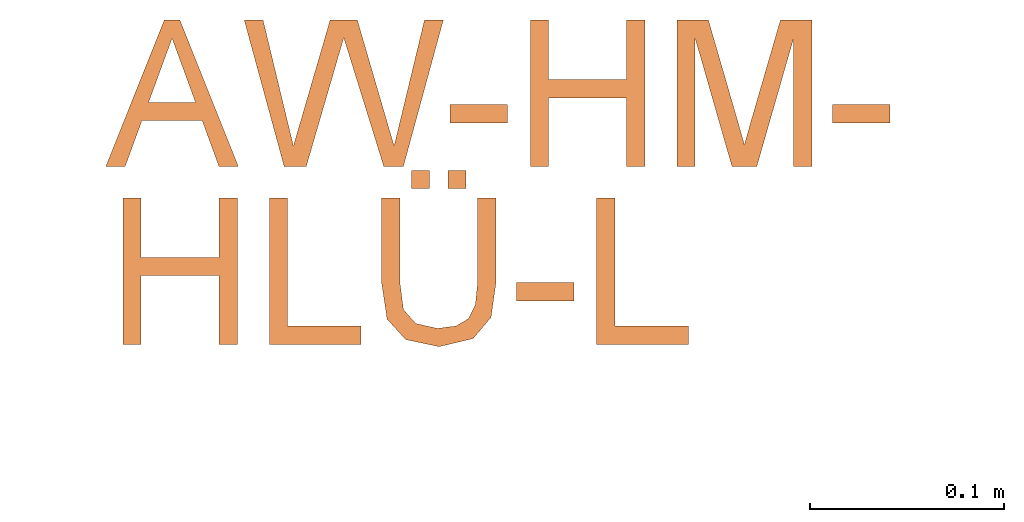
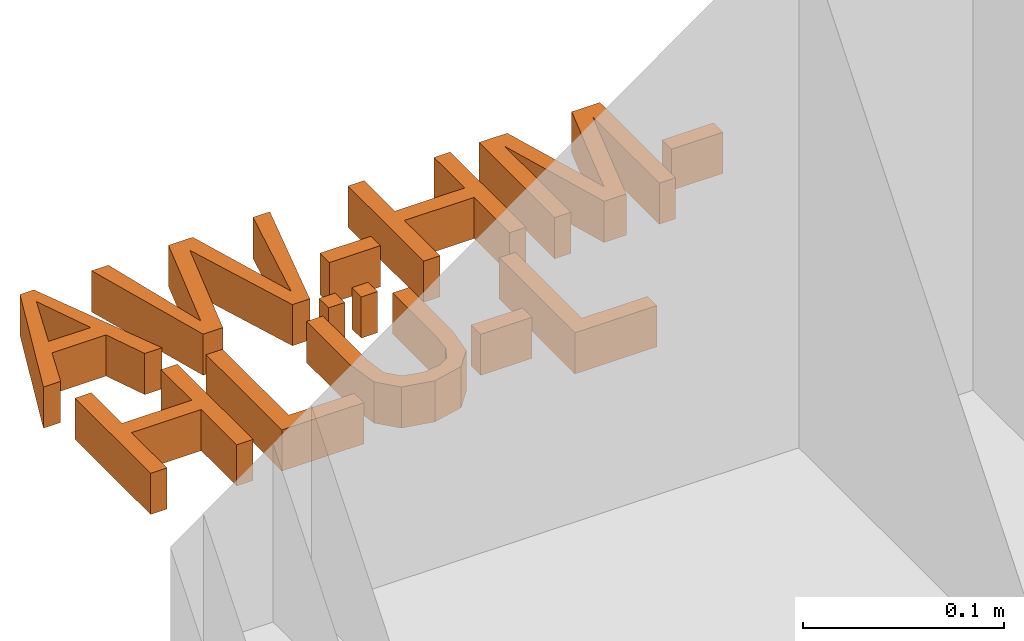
# Not in any storey, part 2 of 2: 1 proxy.
"""IFC4 model written with IfcOpenShell, lengths in metres."""

from ifc_helpers import new_model, entity, si_unit, converted_unit, derived_unit, direction, frame, origin, place, context, subcontext, project, spatial, indexed_curve, outline, extrude, type_object, element, save


model = new_model("IFC4")

# Units and contexts
model_context = context("Model", 3, precision=1e-05, world=origin(), true_north=direction((6.123031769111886e-17, 1.0)))
body_context = subcontext(model_context, "Body", "Model", "MODEL_VIEW")
ifc_project = project(units=[si_unit("LENGTHUNIT", "METRE"), si_unit("AREAUNIT", "SQUARE_METRE"), si_unit("VOLUMEUNIT", "CUBIC_METRE"), converted_unit("PLANEANGLEUNIT", "DEGREE", entity("IfcRatioMeasure", 0.017453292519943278), si_unit("PLANEANGLEUNIT", "RADIAN"), dimensions=[0, 0, 0, 0, 0, 0, 0]), si_unit("MASSUNIT", "GRAM", prefix="KILO"), derived_unit("MASSDENSITYUNIT", [(si_unit("MASSUNIT", "GRAM", prefix="KILO"), 1), (si_unit("LENGTHUNIT", "METRE"), -3)]), derived_unit("IONCONCENTRATIONUNIT", [(si_unit("MASSUNIT", "GRAM", prefix="KILO"), 1), (si_unit("LENGTHUNIT", "METRE"), -3)]), derived_unit("MOMENTOFINERTIAUNIT", [(si_unit("LENGTHUNIT", "METRE"), 4)]), si_unit("TIMEUNIT", "SECOND"), si_unit("FREQUENCYUNIT", "HERTZ"), si_unit("THERMODYNAMICTEMPERATUREUNIT", "DEGREE_CELSIUS"), derived_unit("THERMALTRANSMITTANCEUNIT", [(si_unit("MASSUNIT", "GRAM", prefix="KILO"), 1), (si_unit("THERMODYNAMICTEMPERATUREUNIT", "KELVIN"), -1), (si_unit("TIMEUNIT", "SECOND"), -3)]), derived_unit("THERMALCONDUCTANCEUNIT", [(si_unit("MASSUNIT", "GRAM", prefix="KILO"), 1), (si_unit("THERMODYNAMICTEMPERATUREUNIT", "KELVIN"), -1), (si_unit("TIMEUNIT", "SECOND"), -3), (si_unit("LENGTHUNIT", "METRE"), 1)]), derived_unit("VOLUMETRICFLOWRATEUNIT", [(si_unit("LENGTHUNIT", "METRE"), 3), (si_unit("TIMEUNIT", "SECOND"), -1)]), derived_unit("MASSFLOWRATEUNIT", [(si_unit("MASSUNIT", "GRAM", prefix="KILO"), 1), (si_unit("TIMEUNIT", "SECOND"), -1)]), derived_unit("ROTATIONALFREQUENCYUNIT", [(si_unit("TIMEUNIT", "SECOND"), -1)]), si_unit("ELECTRICCURRENTUNIT", "AMPERE"), si_unit("ELECTRICVOLTAGEUNIT", "VOLT"), si_unit("POWERUNIT", "WATT"), si_unit("FORCEUNIT", "NEWTON", prefix="KILO"), si_unit("ILLUMINANCEUNIT", "LUX"), si_unit("LUMINOUSFLUXUNIT", "LUMEN"), si_unit("LUMINOUSINTENSITYUNIT", "CANDELA"), derived_unit("USERDEFINED", [(si_unit("MASSUNIT", "GRAM", prefix="KILO"), -1), (si_unit("LENGTHUNIT", "METRE"), -2), (si_unit("TIMEUNIT", "SECOND"), 3), (si_unit("LUMINOUSFLUXUNIT", "LUMEN"), 1)]), derived_unit("USERDEFINED", [(si_unit("MASSUNIT", "GRAM", prefix="KILO"), 1), (si_unit("TIMEUNIT", "SECOND"), -3), (si_unit("LENGTHUNIT", "METRE"), 3), (si_unit("ELECTRICCURRENTUNIT", "AMPERE"), -2)]), derived_unit("SOUNDPOWERUNIT", [(si_unit("MASSUNIT", "GRAM", prefix="KILO"), 1), (si_unit("TIMEUNIT", "SECOND"), -3), (si_unit("LENGTHUNIT", "METRE"), 2)]), derived_unit("SOUNDPRESSUREUNIT", [(si_unit("MASSUNIT", "GRAM", prefix="KILO"), 1), (si_unit("LENGTHUNIT", "METRE"), -1), (si_unit("TIMEUNIT", "SECOND"), -2)]), derived_unit("LINEARVELOCITYUNIT", [(si_unit("LENGTHUNIT", "METRE"), 1), (si_unit("TIMEUNIT", "SECOND"), -1)]), si_unit("PRESSUREUNIT", "PASCAL"), derived_unit("USERDEFINED", [(si_unit("MASSUNIT", "GRAM", prefix="KILO"), 1), (si_unit("LENGTHUNIT", "METRE"), -2), (si_unit("TIMEUNIT", "SECOND"), -2)]), derived_unit("LINEARFORCEUNIT", [(si_unit("MASSUNIT", "GRAM", prefix="KILO"), 1), (si_unit("TIMEUNIT", "SECOND"), -2)]), derived_unit("PLANARFORCEUNIT", [(si_unit("MASSUNIT", "GRAM", prefix="KILO"), 1), (si_unit("LENGTHUNIT", "METRE"), -1), (si_unit("TIMEUNIT", "SECOND"), -2)]), derived_unit("SPECIFICHEATCAPACITYUNIT", [(si_unit("THERMODYNAMICTEMPERATUREUNIT", "KELVIN"), -1), (si_unit("LENGTHUNIT", "METRE"), 2), (si_unit("TIMEUNIT", "SECOND"), -2)]), derived_unit("HEATINGVALUEUNIT", [(si_unit("LENGTHUNIT", "METRE"), 2), (si_unit("TIMEUNIT", "SECOND"), -2)]), derived_unit("VAPORPERMEABILITYUNIT", [(si_unit("LENGTHUNIT", "METRE"), -1), (si_unit("TIMEUNIT", "SECOND"), 1)]), derived_unit("DYNAMICVISCOSITYUNIT", [(si_unit("MASSUNIT", "GRAM", prefix="KILO"), 1), (si_unit("TIMEUNIT", "SECOND"), -1), (si_unit("LENGTHUNIT", "METRE"), -1)]), derived_unit("THERMALEXPANSIONCOEFFICIENTUNIT", [(si_unit("THERMODYNAMICTEMPERATUREUNIT", "KELVIN"), -1)]), derived_unit("MODULUSOFELASTICITYUNIT", [(si_unit("MASSUNIT", "GRAM", prefix="KILO"), 1), (si_unit("LENGTHUNIT", "METRE"), -1), (si_unit("TIMEUNIT", "SECOND"), -2)]), derived_unit("ISOTHERMALMOISTURECAPACITYUNIT", [(si_unit("LENGTHUNIT", "METRE"), 3), (si_unit("MASSUNIT", "GRAM", prefix="KILO"), -1)]), derived_unit("MOISTUREDIFFUSIVITYUNIT", [(si_unit("TIMEUNIT", "SECOND"), -1), (si_unit("LENGTHUNIT", "METRE"), 2)])], contexts=[model_context])

# Site
site_placement = place(None, origin())
site = spatial("IfcSite", under=ifc_project, at=site_placement, Name="Default", CompositionType="ELEMENT")

# Proxy
building_element_proxy_type = type_object("IfcBuildingElementProxyType", Name="Modelltext:075mm Arial", PredefinedType="NOTDEFINED")
proxy_placement = place(site_placement, origin())
element("IfcBuildingElementProxy", 1, at=proxy_placement, inside=site, type_object=building_element_proxy_type, Name="Modelltext:075mm Arial", ObjectType="Modelltext:075mm Arial", PredefinedType="NOTDEFINED", context=body_context, shape_type="SweptSolid", body=[
    extrude(outline(indexed_curve([(-0.03408196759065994, -0.02472167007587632), (-0.024130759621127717, -0.02472167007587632), (-0.015522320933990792, -0.0011772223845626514), (0.01550852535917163, -0.0011772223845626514), (0.024135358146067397, -0.02472167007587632), (0.03408656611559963, -0.02472167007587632), (0.00401221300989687, 0.05062056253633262), (-0.0040076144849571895, 0.05062056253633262), (-0.03408196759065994, -0.02472167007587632)], self_intersect=False), holes=[indexed_curve([(-0.012064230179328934, 0.008240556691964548), (-0.004688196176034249, 0.0283820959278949), (2.2992624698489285e-06, 0.041202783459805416), (0.005281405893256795, 0.026763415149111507), (0.012068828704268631, 0.008240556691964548), (-0.012064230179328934, 0.008240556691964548)], self_intersect=False)]), frame((0.09700408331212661, 47.88710463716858, 0.0)), (0.0, 0.0, 1.0), 0.025),
    extrude(outline(indexed_curve([(-0.030486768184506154, -0.04038957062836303), (-0.019119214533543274, -0.04038957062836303), (-0.002656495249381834, 0.016080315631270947), (0.00017619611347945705, 0.025847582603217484), (0.0026961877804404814, 0.017735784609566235), (0.020759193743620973, -0.04038957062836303), (0.030820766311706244, -0.04038957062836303), (0.051385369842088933, 0.03495266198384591), (0.04167328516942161, 0.03495266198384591), (0.02964354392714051, -0.015005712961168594), (0.026075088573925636, -0.029849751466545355), (0.01800007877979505, -0.0022218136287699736), (0.007147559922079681, 0.03495266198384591), (-0.006850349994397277, 0.03495266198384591), (-0.021786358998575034, -0.016330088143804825), (-0.025722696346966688, -0.029849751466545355), (-0.029401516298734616, -0.014564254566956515), (-0.04132089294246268, 0.03495266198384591), (-0.05103297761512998, 0.03495266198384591), (-0.030486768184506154, -0.04038957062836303)], self_intersect=False)), frame((0.18512186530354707, 47.90277253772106, 0.0)), (0.0, 0.0, 1.0), 0.025),
    extrude(outline(indexed_curve([(-0.014715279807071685, -0.004708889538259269), (0.014715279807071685, -0.004708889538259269), (0.014715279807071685, 0.004708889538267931), (-0.014715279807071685, 0.004708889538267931), (-0.014715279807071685, -0.004708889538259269)], self_intersect=False)), frame((0.2547541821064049, 47.88945908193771, 0.0)), (0.0, 0.0, 1.0), 0.025),
    extrude(outline(indexed_curve([(-0.02943055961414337, -0.038455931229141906), (-0.02001278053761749, -0.038455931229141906), (-0.02001278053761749, -0.0031392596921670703), (0.02001278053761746, -0.0031392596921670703), (0.02001278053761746, -0.038455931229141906), (0.02943055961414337, -0.038455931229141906), (0.02943055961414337, 0.03688630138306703), (0.02001278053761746, 0.03688630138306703), (0.02001278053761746, 0.006278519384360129), (-0.02001278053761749, 0.006278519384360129), (-0.02001278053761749, 0.03688630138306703), (-0.02943055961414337, 0.03688630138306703), (-0.02943055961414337, -0.038455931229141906)], self_intersect=False)), frame((0.3106722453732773, 47.90083889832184, 0.0)), (0.0, 0.0, 1.0), 0.025),
    extrude(outline(indexed_curve([(-0.034745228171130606, -0.032650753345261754), (-0.02532744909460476, -0.032650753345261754), (-0.02532744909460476, 0.03327370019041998), (-0.00639992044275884, -0.032650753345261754), (0.006365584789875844, -0.032650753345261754), (0.025293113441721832, 0.03327370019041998), (0.025293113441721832, -0.032650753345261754), (0.03471089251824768, -0.032650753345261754), (0.03471089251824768, 0.042691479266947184), (0.018505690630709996, 0.042691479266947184), (0.003348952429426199, -0.009492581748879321), (-1.7167826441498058e-05, -0.021503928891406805), (-0.003125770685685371, -0.010412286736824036), (-0.01854002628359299, 0.042691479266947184), (-0.034745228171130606, 0.042691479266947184), (-0.034745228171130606, -0.032650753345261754)], self_intersect=False)), frame((0.3913291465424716, 47.89503372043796, 0.0)), (0.0, 0.0, 1.0), 0.025),
    extrude(outline(indexed_curve([(-0.014715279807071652, -0.004708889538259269), (0.01471527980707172, -0.004708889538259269), (0.01471527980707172, 0.004708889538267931), (-0.014715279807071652, 0.004708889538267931), (-0.014715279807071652, -0.004708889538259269)], self_intersect=False)), frame((0.4513503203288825, 47.88945908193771, 0.0)), (0.0, 0.0, 1.0), 0.025),
    extrude(outline(indexed_curve([(-0.029430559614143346, -0.03845593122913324), (-0.020012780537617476, -0.03845593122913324), (-0.020012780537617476, -0.0031392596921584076), (0.020012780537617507, -0.0031392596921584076), (0.020012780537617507, -0.03845593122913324), (0.029430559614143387, -0.03845593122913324), (0.029430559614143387, 0.03688630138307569), (0.020012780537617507, 0.03688630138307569), (0.020012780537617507, 0.006278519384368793), (-0.020012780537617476, 0.006278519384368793), (-0.020012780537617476, 0.03688630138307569), (-0.029430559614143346, 0.03688630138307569), (-0.029430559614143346, -0.03845593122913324)], self_intersect=False)), frame((0.1011266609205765, 47.80935778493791, 0.0)), (0.0, 0.0, 1.0), 0.025),
    extrude(outline(indexed_curve([(-0.01883555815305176, -0.0282533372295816), (0.02825333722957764, -0.0282533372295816), (0.02825333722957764, -0.0188355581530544), (-0.00941777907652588, -0.0188355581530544), (-0.00941777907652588, 0.04708889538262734), (-0.01883555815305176, 0.04708889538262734), (-0.01883555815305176, -0.0282533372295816)], self_intersect=False)), frame((0.16587389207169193, 47.79915519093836, 0.0)), (0.0, 0.0, 1.0), 0.025),
    extrude(outline(indexed_curve([(-0.004708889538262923, -0.004708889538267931), (0.004708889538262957, -0.004708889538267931), (0.004708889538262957, 0.004708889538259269), (-0.004708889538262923, 0.004708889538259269), (-0.004708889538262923, -0.004708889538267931)], self_intersect=False)), frame((0.22473501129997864, 47.855661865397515, 0.0)), (0.0, 0.0, 1.0), 0.025),
    extrude(outline(indexed_curve([(-0.046888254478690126, -0.0193050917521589), (-0.046888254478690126, -0.028722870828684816), (-0.003422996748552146, -0.028722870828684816), (0.014594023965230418, -0.026166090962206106), (0.02544654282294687, -0.01695064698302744), (0.02963120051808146, 0.0005237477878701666), (0.025989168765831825, 0.01773142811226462), (0.015440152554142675, 0.02727796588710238), (-0.003422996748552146, 0.030138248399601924), (-0.046888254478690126, 0.030138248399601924), (-0.046888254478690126, 0.020720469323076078), (-0.0037540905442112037, 0.020720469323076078), (0.010602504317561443, 0.018862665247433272), (0.017711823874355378, 0.01247991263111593), (0.02021342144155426, 0.0014066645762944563), (0.01897641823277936, -0.008172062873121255), (0.015265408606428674, -0.01454101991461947), (0.008036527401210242, -0.018114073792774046), (-0.0037540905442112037, -0.0193050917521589), (-0.046888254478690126, -0.0193050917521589)], self_intersect=False)), frame((0.2348604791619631, 47.79935583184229, 0.0), z_axis=(0.0, 0.0, -1.0), x_axis=(0.0, -1.0, 0.0)), (0.0, 0.0, -1.0), 0.025),
    extrude(outline(indexed_curve([(-0.004708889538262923, -0.004708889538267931), (0.004708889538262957, -0.004708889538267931), (0.004708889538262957, 0.004708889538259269), (-0.004708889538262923, 0.004708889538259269), (-0.004708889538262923, -0.004708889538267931)], self_intersect=False)), frame((0.2435705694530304, 47.855661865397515, 0.0)), (0.0, 0.0, 1.0), 0.025),
    extrude(outline(indexed_curve([(-0.014715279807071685, -0.004708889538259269), (0.014715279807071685, -0.004708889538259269), (0.014715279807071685, 0.004708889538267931), (-0.014715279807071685, 0.004708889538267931), (-0.014715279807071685, -0.004708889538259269)], self_intersect=False)), frame((0.2888936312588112, 47.79797796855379, 0.0)), (0.0, 0.0, 1.0), 0.025),
    extrude(outline(indexed_curve([(-0.01883555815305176, -0.0282533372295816), (0.028253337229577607, -0.0282533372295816), (0.028253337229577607, -0.0188355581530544), (-0.009417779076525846, -0.0188355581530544), (-0.009417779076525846, 0.04708889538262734), (-0.01883555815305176, 0.04708889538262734), (-0.01883555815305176, -0.0282533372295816)], self_intersect=False)), frame((0.33421669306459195, 47.79915519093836, 0.0)), (0.0, 0.0, 1.0), 0.025),
])

save(model, "model.ifc")
